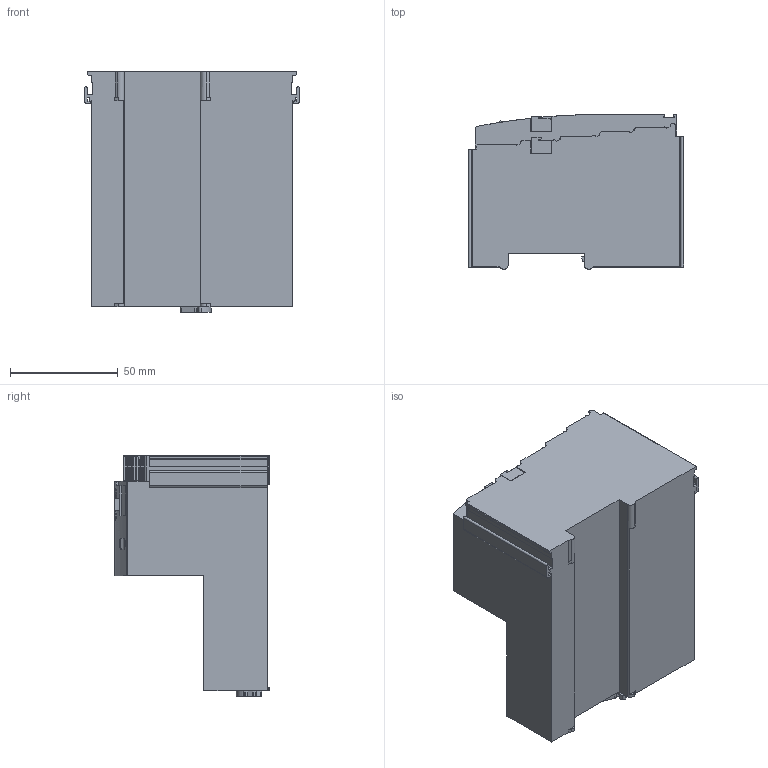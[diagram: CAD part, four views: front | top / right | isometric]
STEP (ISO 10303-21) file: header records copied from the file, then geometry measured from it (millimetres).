
FILE_DESCRIPTION( ( 'STEP AP214' ), ' ' );
FILE_NAME( 'p:/temp/worker_2510/5656_5584/app_41_02018013112122082961323192d056f_000000_00_00_000000/format_0/750-8206.stp', '2018-01-31T11:12:22', ( '' ), ( '' ), ' ', 'PARTsolutions', ' ' );
FILE_SCHEMA( ( 'AUTOMOTIVE_DESIGN { 1 0 10303 214 1 1 1 1 }' ) );
Length unit declared in the file: millimetre
Products named in the file (1): _750-8206
Bounding box: 100 x 71.9 x 111.85 mm (x, y, z)
Volume: 461002.3 mm3; surface area: 51984.6 mm2
Topology: 1 solids, 1 shells, 596 faces, 1631 edges, 1077 vertices
Faces by surface type: plane 425, cylinder 153, cone 16, sphere 2
Entity records: 23720 total; most frequent: CARTESIAN_POINT 3502, ORIENTED_EDGE 3262, DIRECTION 3162, EDGE_CURVE 1631, LINE 1244, VECTOR 1244, VERTEX_POINT 1077, AXIS2_PLACEMENT_3D 959
